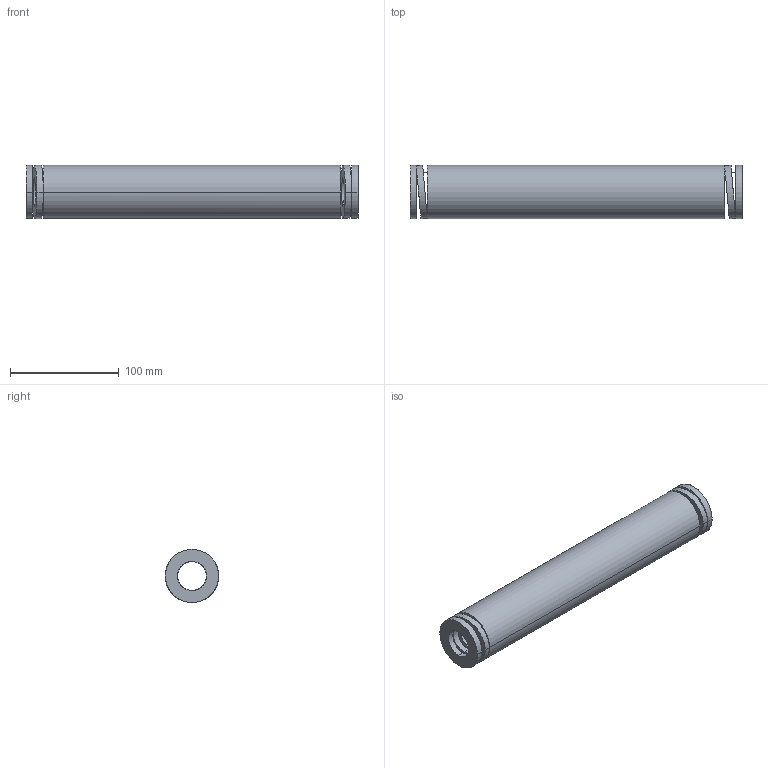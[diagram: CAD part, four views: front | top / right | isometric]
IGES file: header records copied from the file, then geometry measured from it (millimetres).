
Start section: START RECORD GO HERE.
Global section: file name: 392-B50-305.igs; native system: DASSAULT SYSTEMES CATIA V5 R20 - www.3ds.com; preprocessor: CATIA Version 5 Release 20 ; author: Utente; organization: NB04-ASUS; date: 20210813.134129; units: millimetre
Bounding box: 305 x 49.12 x 48.8 mm (x, y, z)
Surface area: 83349 mm2 (no closed solid volume)
Topology: 0 solids, 0 shells, 38 faces, 184 edges, 184 vertices
Faces by surface type: revolution 28, plane 10
